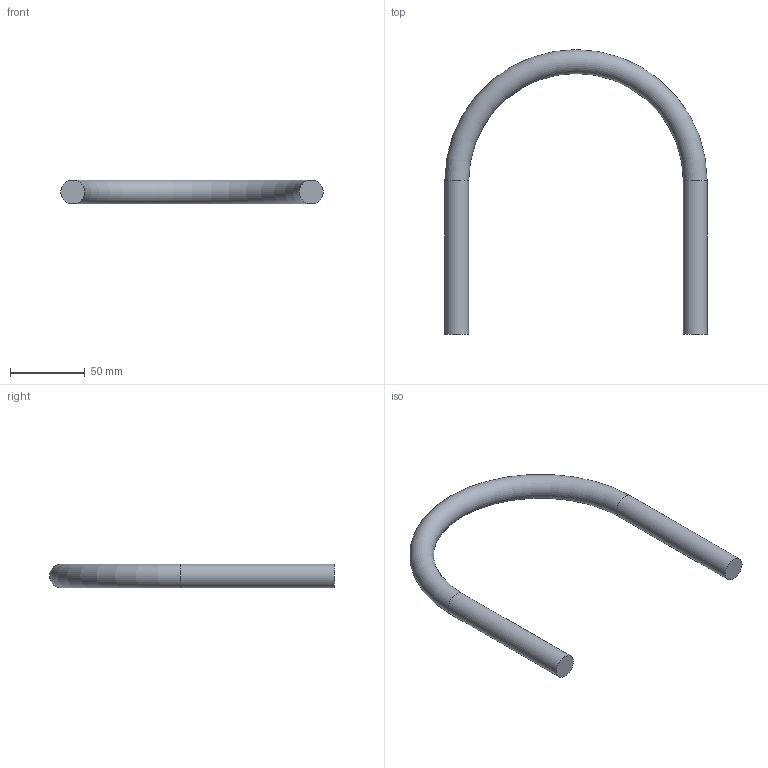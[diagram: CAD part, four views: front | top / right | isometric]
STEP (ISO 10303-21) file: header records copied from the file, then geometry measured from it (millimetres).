
FILE_DESCRIPTION(/* description */ (''),/* implementation_level */ '2;1');
FILE_NAME(/* name */ 'C:\Users\D\Documents\Inventor\各種小物\JIS\01-Uボルト2\一般配管用\125A\u-bolt-125a-m16.stp',/* time_stamp */ '2022-04-27T10:18:29+09:00',/* author */ ('D'),/* organization */ (''),/* preprocessor_version */ 'ST-DEVELOPER v18',/* originating_system */ 'Autodesk Inventor 2020',/* authorisation */ '');
FILE_SCHEMA (('AUTOMOTIVE_DESIGN { 1 0 10303 214 3 1 1 }'));
Length unit declared in the file: millimetre
Products named in the file (1): u-bolt-8a-m6
Bounding box: 176 x 191 x 16 mm (x, y, z)
Volume: 91951.1 mm3; surface area: 23389.9 mm2
Topology: 1 solids, 1 shells, 5 faces, 11 edges, 8 vertices
Faces by surface type: cylinder 2, plane 2, torus 1
Full cylindrical faces by diameter (mm): 16 x2
Entity records: 191 total; most frequent: DIRECTION 32, CARTESIAN_POINT 25, ORIENTED_EDGE 22, AXIS2_PLACEMENT_3D 15, EDGE_CURVE 11, CIRCLE 9, VERTEX_POINT 8, FACE_OUTER_BOUND 5
